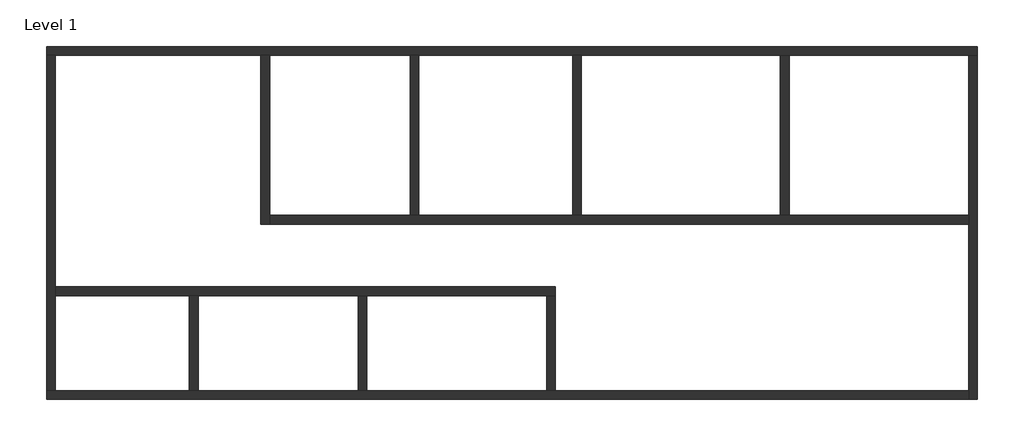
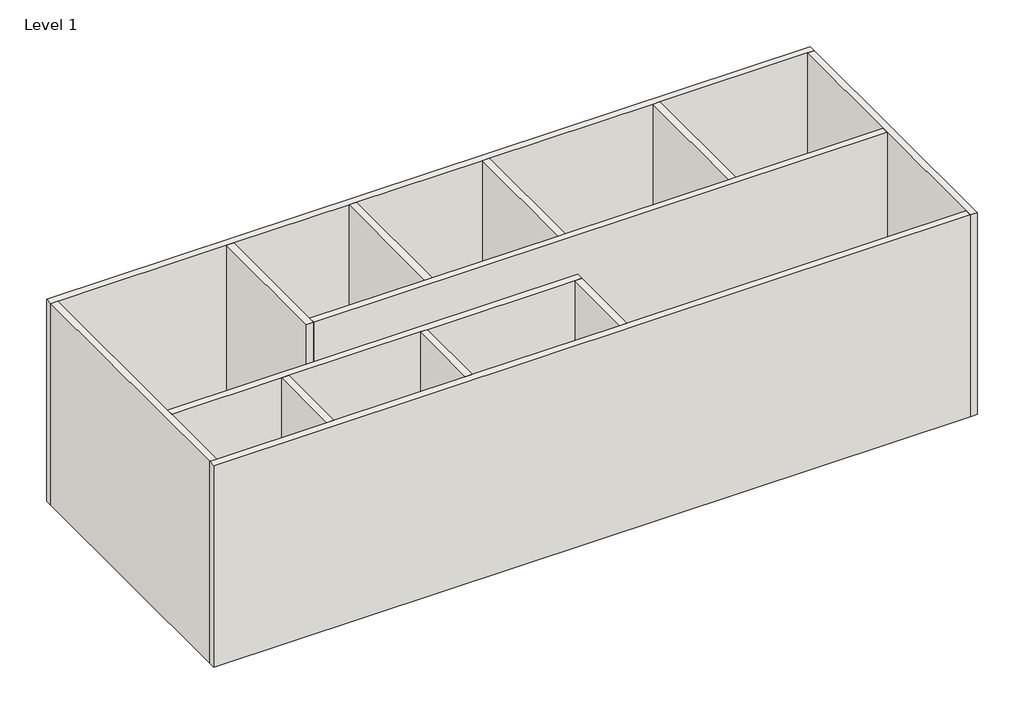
# One storey: 13 walls.
"""IFC4 building model written with IfcOpenShell, lengths in millimetres."""

import ifcopenshell
import ifcopenshell.guid

model = None  # the IFC model being written
_history = None  # IfcOwnerHistory: only IFC2X3 demands one
_inside = {}  # id of a spatial element -> (the spatial element, [elements in it])
_under = {}  # id of a project, library or spatial element -> (it, [spatial elements below it])
_declared = {}  # id of a project -> (the project, [libraries it declares])
_typed = {}  # id of a type object -> (the type object, [elements of that type])
_made_of = {}  # id of a material, layer set ... -> (it, [elements and type objects made of it])


def new_model(schema):
    """Start an empty IFC model of exactly this schema.

    Asked for "IFC4X3", IfcOpenShell would pick the latest addendum, in which some entities
    have other attributes; the version numbers below select the first issue.
    IFC2X3 requires an IfcOwnerHistory on every rooted entity: one is made here for all.
    """
    global model, _history
    if schema == "IFC4X3":
        model = ifcopenshell.file(schema_version=(4, 3, 0, 0))
    else:
        model = ifcopenshell.file(schema=schema)
    _inside.clear()
    _under.clear()
    _declared.clear()
    _typed.clear()
    _made_of.clear()
    _history = None
    if model.schema == "IFC2X3":
        org = make("IfcOrganization", Name="unknown")
        user = make(
            "IfcPersonAndOrganization",
            ThePerson=make("IfcPerson", FamilyName="unknown"),
            TheOrganization=org,
        )
        app = make(
            "IfcApplication",
            ApplicationDeveloper=org,
            Version="unknown",
            ApplicationFullName="unknown",
            ApplicationIdentifier="unknown",
        )
        _history = make(
            "IfcOwnerHistory",
            OwningUser=user,
            OwningApplication=app,
            ChangeAction="ADDED",
            CreationDate=0,
        )
    return model


def make(cls, **values):
    """One entity of the class cls with the attributes given. An attribute that is None is left unset."""
    return model.create_entity(
        cls, **{name: value for name, value in values.items() if value is not None}
    )


def rooted(cls, **values):
    """An entity with a GlobalId (a new one), such as an element, a storey or a relation."""
    return make(cls, GlobalId=ifcopenshell.guid.new(), OwnerHistory=_history, **values)


def si_unit(unit_type, name, prefix=None):
    """IfcSIUnit, for example si_unit("LENGTHUNIT", "METRE", prefix="MILLI")."""
    return make("IfcSIUnit", UnitType=unit_type, Prefix=prefix, Name=name)


def assignment(units):
    """IfcUnitAssignment: the units of a project."""
    return None if units is None else make("IfcUnitAssignment", Units=units)


def point(xyz):
    """IfcCartesianPoint."""
    return None if xyz is None else make("IfcCartesianPoint", Coordinates=xyz)


def direction(xyz):
    """IfcDirection."""
    return None if xyz is None else make("IfcDirection", DirectionRatios=xyz)


def frame(location, z_axis=None, x_axis=None):
    """IfcAxis2Placement3D, a coordinate frame: its origin and axes. An axis left out is left unset."""
    return make(
        "IfcAxis2Placement3D",
        Location=point(location),
        Axis=direction(z_axis),
        RefDirection=direction(x_axis),
    )


def origin():
    """The frame at (0, 0, 0) with its axes left unset."""
    return frame((0.0, 0.0, 0.0))


def origin_with_axes():
    """The frame at (0, 0, 0) with the z axis (0, 0, 1) and the x axis (1, 0, 0) written out."""
    return frame((0.0, 0.0, 0.0), z_axis=(0.0, 0.0, 1.0), x_axis=(1.0, 0.0, 0.0))


def place(relative_to, where):
    """IfcLocalPlacement: puts the frame where relative to a parent placement (None: the world)."""
    return make(
        "IfcLocalPlacement", PlacementRelTo=relative_to, RelativePlacement=where
    )


def context(
    kind, dimensions, precision=None, world=None, true_north=None, identifier=None
):
    """IfcGeometricRepresentationContext, for example the 3D "Model" context."""
    return make(
        "IfcGeometricRepresentationContext",
        ContextIdentifier=identifier,
        ContextType=kind,
        CoordinateSpaceDimension=dimensions,
        Precision=precision,
        WorldCoordinateSystem=world,
        TrueNorth=true_north,
    )


def project(units=None, contexts=None):
    """IfcProject with its units and contexts."""
    return rooted(
        "IfcProject",
        Name="project",
        RepresentationContexts=contexts,
        UnitsInContext=assignment(units),
    )


def spatial(cls, under=None, at=None, **own):
    """A site, building, storey or space (cls), placed at a placement, below another one or the project."""
    s = rooted(cls, ObjectPlacement=at, **own)
    if under is not None:
        _under.setdefault(under.id(), (under, []))[1].append(s)
    return s


def polyline(points):
    """IfcPolyline through the points."""
    return make("IfcPolyline", Points=[point(p) for p in points])


def outline(outer, holes=None, kind="AREA"):
    """IfcArbitraryClosedProfileDef: a profile drawn as a closed curve; with holes, ...WithVoids."""
    if holes is None:
        return make("IfcArbitraryClosedProfileDef", ProfileType=kind, OuterCurve=outer)
    return make(
        "IfcArbitraryProfileDefWithVoids",
        ProfileType=kind,
        OuterCurve=outer,
        InnerCurves=holes,
    )


def extrude(swept, where, along, depth):
    """IfcExtrudedAreaSolid: the profile swept, set in the frame where, extruded along a direction by depth."""
    return make(
        "IfcExtrudedAreaSolid",
        SweptArea=swept,
        Position=where,
        ExtrudedDirection=direction(along),
        Depth=depth,
    )


def faces_of(points, faces, orient=None, outer=None):
    """IfcFace entities. A face is a list of loops; a loop is a list of indices into points, from 0.

    orient and outer hold one flag for each loop. By default every Orientation is true, the
    first loop of a face is its IfcFaceOuterBound and the others are IfcFaceBound.
    """
    made = []
    for i, loops in enumerate(faces):
        bounds = []
        for j, loop in enumerate(loops):
            is_outer = j == 0 if outer is None else outer[i][j]
            bounds.append(
                make(
                    "IfcFaceOuterBound" if is_outer else "IfcFaceBound",
                    Bound=make("IfcPolyLoop", Polygon=[points[k] for k in loop]),
                    Orientation=True if orient is None else orient[i][j],
                )
            )
        made.append(make("IfcFace", Bounds=bounds))
    return made


def faceted_brep(points, faces, orient=None, outer=None, voids=None):
    """IfcFacetedBrep: a solid bounded by flat faces; with voids (closed shells), ...WithVoids."""
    shared = [point(p) for p in points]
    hull = make("IfcClosedShell", CfsFaces=faces_of(shared, faces, orient, outer))
    if voids is None:
        return make("IfcFacetedBrep", Outer=hull)
    return make(
        "IfcFacetedBrepWithVoids",
        Outer=hull,
        Voids=[
            make(cls, CfsFaces=faces_of(shared, fs, o, b)) for cls, fs, o, b in voids
        ],
    )


def shape(context_of_items, identifier, shape_type, items):
    """IfcShapeRepresentation: the items that make up one representation, for example the "Body"."""
    return make(
        "IfcShapeRepresentation",
        ContextOfItems=context_of_items,
        RepresentationIdentifier=identifier,
        RepresentationType=shape_type,
        Items=items,
    )


def made_of(thing, what):
    """Note that an element or type object is made of a material, layer set ...; save() writes the relation."""
    if what is not None:
        _made_of.setdefault(what.id(), (what, []))[1].append(thing)
    return thing


def element(
    cls,
    number,
    at=None,
    inside=None,
    cuts=None,
    type_object=None,
    material=None,
    context=None,
    identifier="Body",
    shape_type=None,
    held_by="IfcProductDefinitionShape",
    body=None,
    shapes=None,
    **own,
):
    """One element of the class cls, such as IfcWall. Its Tag is "e" and its number.

    at: its placement. inside: the storey or other place that contains it. cuts: it is an
    opening in that element (IfcRelVoidsElement). A single representation is given by context,
    identifier, shape_type and body (its items); several are given by shapes. held_by: the class
    of the entity that holds the representations. save() writes the other relations.
    """
    e = rooted(cls, Tag="e%d" % number, ObjectPlacement=at, **own)
    if body is not None:
        shapes = [shape(context, identifier, shape_type, body)]
    if shapes is not None:
        e.Representation = make(held_by, Representations=shapes)
    if inside is not None:
        _inside.setdefault(inside.id(), (inside, []))[1].append(e)
    if cuts is not None:
        rooted(
            "IfcRelVoidsElement", RelatingBuildingElement=cuts, RelatedOpeningElement=e
        )
    if type_object is not None:
        _typed.setdefault(type_object.id(), (type_object, []))[1].append(e)
    return made_of(e, material)


def aggregate(whole, parts):
    """IfcRelAggregates: a whole, such as a stair, and the parts it consists of."""
    return rooted("IfcRelAggregates", RelatingObject=whole, RelatedObjects=parts)


def save(model, path):
    """Write the relations noted so far, then the file.

    IfcRelAggregates (storeys below a building ...), IfcRelContainedInSpatialStructure (elements
    in a storey), IfcRelDefinesByType, IfcRelAssociatesMaterial and IfcRelDeclares: one each for
    every whole, place, type object, material and project.
    """
    for whole, parts in _under.values():
        aggregate(whole, parts)
    for where, things in _inside.values():
        rooted(
            "IfcRelContainedInSpatialStructure",
            RelatedElements=things,
            RelatingStructure=where,
        )
    for kind, things in _typed.values():
        rooted("IfcRelDefinesByType", RelatedObjects=things, RelatingType=kind)
    for what, things in _made_of.values():
        rooted("IfcRelAssociatesMaterial", RelatedObjects=things, RelatingMaterial=what)
    for by, libraries in _declared.values():
        rooted("IfcRelDeclares", RelatingContext=by, RelatedDefinitions=libraries)
    model.write(path)


model = new_model("IFC4")

# Units and contexts
model_context = context("Model", 3, world=origin())
ifc_project = project(units=[si_unit("LENGTHUNIT", "METRE", prefix="MILLI")], contexts=[model_context])

# Site, building, storey
site = spatial("IfcSite", under=ifc_project)
building = spatial("IfcBuilding", under=site)
storey = spatial("IfcBuildingStorey", under=building, Name="Level 1", Elevation=0.0)

# Walls
placement = place(None, origin())
element("IfcWall", 1, ObjectType="Generic - 8\"", at=placement, inside=storey, context=model_context, shape_type="Brep", body=[
    faceted_brep([(-14184.6753241, 7008.4887553, 0.0), (-13981.4753241, 7008.4887553, 0.0), (-9155.4753241, 7008.4887553, 0.0), (-8952.2753241, 7008.4887553, 0.0), (-5650.2753241, 7008.4887553, 0.0), (-5447.0753241, 7008.4887553, 0.0), (-1840.2753241, 7008.4887553, 0.0), (-1637.0753241, 7008.4887553, 0.0), (3036.5246759, 7008.4887553, 0.0), (3239.7246759, 7008.4887553, 0.0), (7456.1246759, 7008.4887553, 0.0), (7659.3246759, 7008.4887553, 0.0), (7659.3246759, 7008.4887553, 6096.0), (7456.1246759, 7008.4887553, 6096.0), (3239.7246759, 7008.4887553, 6096.0), (3036.5246759, 7008.4887553, 6096.0), (-1637.0753241, 7008.4887553, 6096.0), (-1840.2753241, 7008.4887553, 6096.0), (-5447.0753241, 7008.4887553, 6096.0), (-5650.2753241, 7008.4887553, 6096.0), (-8952.2753241, 7008.4887553, 6096.0), (-9155.4753241, 7008.4887553, 6096.0), (-13981.4753241, 7008.4887553, 6096.0), (-14184.6753241, 7008.4887553, 6096.0), (-14184.6753241, 7211.6887553, 0.0), (-14184.6753241, 7211.6887553, 6096.0), (7659.3246759, 7211.6887553, 6096.0), (7659.3246759, 7211.6887553, 0.0)], [[[0, 1, 2, 3, 4, 5, 6, 7, 8, 9, 10, 11, 12, 13, 14, 15, 16, 17, 18, 19, 20, 21, 22, 23]], [[24, 25, 26, 27]], [[11, 10, 9, 8, 7, 6, 5, 4, 3, 2, 1, 0, 24, 27]], [[23, 22, 21, 20, 19, 18, 17, 16, 15, 14, 13, 12, 26, 25]], [[12, 11, 27, 26]], [[0, 23, 25, 24]]]),
])
element("IfcWall", 2, ObjectType="Generic - 8\"", at=placement, inside=storey, context=model_context, shape_type="Brep", body=[
    faceted_brep([(7456.1246759, 7008.4887553, 0.0), (7456.1246759, 3249.2887553, 0.0), (7456.1246759, 3046.0887553, 0.0), (7456.1246759, -865.5112447, 0.0), (7456.1246759, -1068.7112447, 0.0), (7456.1246759, -1068.7112447, 6096.0), (7456.1246759, -865.5112447, 6096.0), (7456.1246759, 3046.0887553, 6096.0), (7456.1246759, 3249.2887553, 6096.0), (7456.1246759, 7008.4887553, 6096.0), (7659.3246759, 7008.4887553, 0.0), (7659.3246759, 7008.4887553, 6096.0), (7659.3246759, -1068.7112447, 6096.0), (7659.3246759, -1068.7112447, 0.0)], [[[0, 1, 2, 3, 4, 5, 6, 7, 8, 9]], [[10, 11, 12, 13]], [[4, 3, 2, 1, 0, 10, 13]], [[9, 8, 7, 6, 5, 12, 11]], [[0, 9, 11, 10]], [[5, 4, 13, 12]]]),
])
element("IfcWall", 3, ObjectType="Generic - 8\"", at=placement, inside=storey, context=model_context, shape_type="Brep", body=[
    faceted_brep([(7456.1246759, -865.5112447, 0.0), (-2246.6753241, -865.5112447, 0.0), (-2449.8753241, -865.5112447, 0.0), (-6666.2753241, -865.5112447, 0.0), (-6869.4753241, -865.5112447, 0.0), (-10628.6753241, -865.5112447, 0.0), (-10831.8753241, -865.5112447, 0.0), (-13981.4753241, -865.5112447, 0.0), (-14184.6753241, -865.5112447, 0.0), (-14184.6753241, -865.5112447, 6096.0), (-13981.4753241, -865.5112447, 6096.0), (-10831.8753241, -865.5112447, 6096.0), (-10628.6753241, -865.5112447, 6096.0), (-6869.4753241, -865.5112447, 6096.0), (-6666.2753241, -865.5112447, 6096.0), (-2449.8753241, -865.5112447, 6096.0), (-2246.6753241, -865.5112447, 6096.0), (7456.1246759, -865.5112447, 6096.0), (7456.1246759, -1068.7112447, 0.0), (7456.1246759, -1068.7112447, 6096.0), (-14184.6753241, -1068.7112447, 6096.0), (-14184.6753241, -1068.7112447, 0.0)], [[[0, 1, 2, 3, 4, 5, 6, 7, 8, 9, 10, 11, 12, 13, 14, 15, 16, 17]], [[18, 19, 20, 21]], [[8, 7, 6, 5, 4, 3, 2, 1, 0, 18, 21]], [[17, 16, 15, 14, 13, 12, 11, 10, 9, 20, 19]], [[0, 17, 19, 18]], [[9, 8, 21, 20]]]),
])
element("IfcWall", 4, ObjectType="Generic - 8\"", at=placement, inside=storey, context=model_context, shape_type="Brep", body=[
    faceted_brep([(-13981.4753241, -865.5112447, 0.0), (-13981.4753241, 1369.6887553, 0.0), (-13981.4753241, 1572.8887553, 0.0), (-13981.4753241, 7008.4887553, 0.0), (-13981.4753241, 7008.4887553, 6096.0), (-13981.4753241, 1572.8887553, 6096.0), (-13981.4753241, 1369.6887553, 6096.0), (-13981.4753241, -865.5112447, 6096.0), (-14184.6753241, -865.5112447, 0.0), (-14184.6753241, -865.5112447, 6096.0), (-14184.6753241, 7008.4887553, 6096.0), (-14184.6753241, 7008.4887553, 0.0)], [[[0, 1, 2, 3, 4, 5, 6, 7]], [[8, 9, 10, 11]], [[3, 2, 1, 0, 8, 11]], [[7, 6, 5, 4, 10, 9]], [[4, 3, 11, 10]], [[0, 7, 9, 8]]]),
])
element("IfcWall", 5, ObjectType="Generic - 8\"", at=placement, inside=storey, context=model_context, shape_type="Brep", body=[
    faceted_brep([(-9155.4753241, 7008.4887553, 0.0), (-9155.4753241, 3046.0887553, 0.0), (-9155.4753241, 3046.0887553, 6096.0), (-9155.4753241, 7008.4887553, 6096.0), (-8952.2753241, 7008.4887553, 0.0), (-8952.2753241, 7008.4887553, 6096.0), (-8952.2753241, 3249.2887553, 6096.0), (-8952.2753241, 3046.0887553, 6096.0), (-8952.2753241, 3046.0887553, 0.0), (-8952.2753241, 3249.2887553, 0.0)], [[[0, 1, 2, 3]], [[4, 5, 6, 7, 8, 9]], [[1, 0, 4, 9, 8]], [[3, 2, 7, 6, 5]], [[0, 3, 5, 4]], [[2, 1, 8, 7]]]),
])
element("IfcWall", 6, ObjectType="Generic - 8\"", at=placement, inside=storey, context=model_context, shape_type="Brep", body=[
    faceted_brep([(-8952.2753241, 3046.0887553, 0.0), (7456.1246759, 3046.0887553, 0.0), (7456.1246759, 3046.0887553, 6096.0), (-8952.2753241, 3046.0887553, 6096.0), (-8952.2753241, 3249.2887553, 0.0), (-8952.2753241, 3249.2887553, 6096.0), (-5650.2753241, 3249.2887553, 6096.0), (-5447.0753241, 3249.2887553, 6096.0), (-1840.2753241, 3249.2887553, 6096.0), (-1637.0753241, 3249.2887553, 6096.0), (3036.5246759, 3249.2887553, 6096.0), (3239.7246759, 3249.2887553, 6096.0), (7456.1246759, 3249.2887553, 6096.0), (7456.1246759, 3249.2887553, 0.0), (3239.7246759, 3249.2887553, 0.0), (3036.5246759, 3249.2887553, 0.0), (-1637.0753241, 3249.2887553, 0.0), (-1840.2753241, 3249.2887553, 0.0), (-5447.0753241, 3249.2887553, 0.0), (-5650.2753241, 3249.2887553, 0.0)], [[[0, 1, 2, 3]], [[4, 5, 6, 7, 8, 9, 10, 11, 12, 13, 14, 15, 16, 17, 18, 19]], [[1, 0, 4, 19, 18, 17, 16, 15, 14, 13]], [[3, 2, 12, 11, 10, 9, 8, 7, 6, 5]], [[0, 3, 5, 4]], [[2, 1, 13, 12]]]),
])
element("IfcWall", 7, ObjectType="Generic - 8\"", at=placement, inside=storey, context=model_context, shape_type="Brep", body=[
    faceted_brep([(-13981.4753241, 1369.6887553, 0.0), (-10831.8753241, 1369.6887553, 0.0), (-10628.6753241, 1369.6887553, 0.0), (-6869.4753241, 1369.6887553, 0.0), (-6666.2753241, 1369.6887553, 0.0), (-2449.8753241, 1369.6887553, 0.0), (-2246.6753241, 1369.6887553, 0.0), (-2246.6753241, 1369.6887553, 6096.0), (-2449.8753241, 1369.6887553, 6096.0), (-6666.2753241, 1369.6887553, 6096.0), (-6869.4753241, 1369.6887553, 6096.0), (-10628.6753241, 1369.6887553, 6096.0), (-10831.8753241, 1369.6887553, 6096.0), (-13981.4753241, 1369.6887553, 6096.0), (-13981.4753241, 1572.8887553, 0.0), (-13981.4753241, 1572.8887553, 6096.0), (-2246.6753241, 1572.8887553, 6096.0), (-2246.6753241, 1572.8887553, 0.0)], [[[0, 1, 2, 3, 4, 5, 6, 7, 8, 9, 10, 11, 12, 13]], [[14, 15, 16, 17]], [[6, 5, 4, 3, 2, 1, 0, 14, 17]], [[13, 12, 11, 10, 9, 8, 7, 16, 15]], [[0, 13, 15, 14]], [[7, 6, 17, 16]]]),
])
element("IfcWall", 8, ObjectType="Generic - 8\"", at=placement, inside=storey, context=model_context, shape_type="SweptSolid", body=[
    extrude(outline(polyline([(-2449.8753241, -865.5112447), (-2449.8753241, 1369.6887553), (-2246.6753241, 1369.6887553), (-2246.6753241, -865.5112447), (-2449.8753241, -865.5112447)])), origin_with_axes(), (0.0, 0.0, 1.0), 6096.0),
])
element("IfcWall", 9, ObjectType="Generic - 8\"", at=placement, inside=storey, context=model_context, shape_type="SweptSolid", body=[
    extrude(outline(polyline([(-5650.2753241, 3249.2887553), (-5650.2753241, 7008.4887553), (-5447.0753241, 7008.4887553), (-5447.0753241, 3249.2887553), (-5650.2753241, 3249.2887553)])), origin_with_axes(), (0.0, 0.0, 1.0), 6096.0),
])
element("IfcWall", 10, ObjectType="Generic - 8\"", at=placement, inside=storey, context=model_context, shape_type="SweptSolid", body=[
    extrude(outline(polyline([(-1840.2753241, 3249.2887553), (-1840.2753241, 7008.4887553), (-1637.0753241, 7008.4887553), (-1637.0753241, 3249.2887553), (-1840.2753241, 3249.2887553)])), origin_with_axes(), (0.0, 0.0, 1.0), 6096.0),
])
element("IfcWall", 11, ObjectType="Generic - 8\"", at=placement, inside=storey, context=model_context, shape_type="SweptSolid", body=[
    extrude(outline(polyline([(3036.5246759, 3249.2887553), (3036.5246759, 7008.4887553), (3239.7246759, 7008.4887553), (3239.7246759, 3249.2887553), (3036.5246759, 3249.2887553)])), origin_with_axes(), (0.0, 0.0, 1.0), 6096.0),
])
element("IfcWall", 12, ObjectType="Generic - 8\"", at=placement, inside=storey, context=model_context, shape_type="SweptSolid", body=[
    extrude(outline(polyline([(-10831.8753241, -865.5112447), (-10831.8753241, 1369.6887553), (-10628.6753241, 1369.6887553), (-10628.6753241, -865.5112447), (-10831.8753241, -865.5112447)])), origin_with_axes(), (0.0, 0.0, 1.0), 6096.0),
])
element("IfcWall", 13, ObjectType="Generic - 8\"", at=placement, inside=storey, context=model_context, shape_type="SweptSolid", body=[
    extrude(outline(polyline([(-6869.4753241, -865.5112447), (-6869.4753241, 1369.6887553), (-6666.2753241, 1369.6887553), (-6666.2753241, -865.5112447), (-6869.4753241, -865.5112447)])), origin_with_axes(), (0.0, 0.0, 1.0), 6096.0),
])

save(model, "model.ifc")
